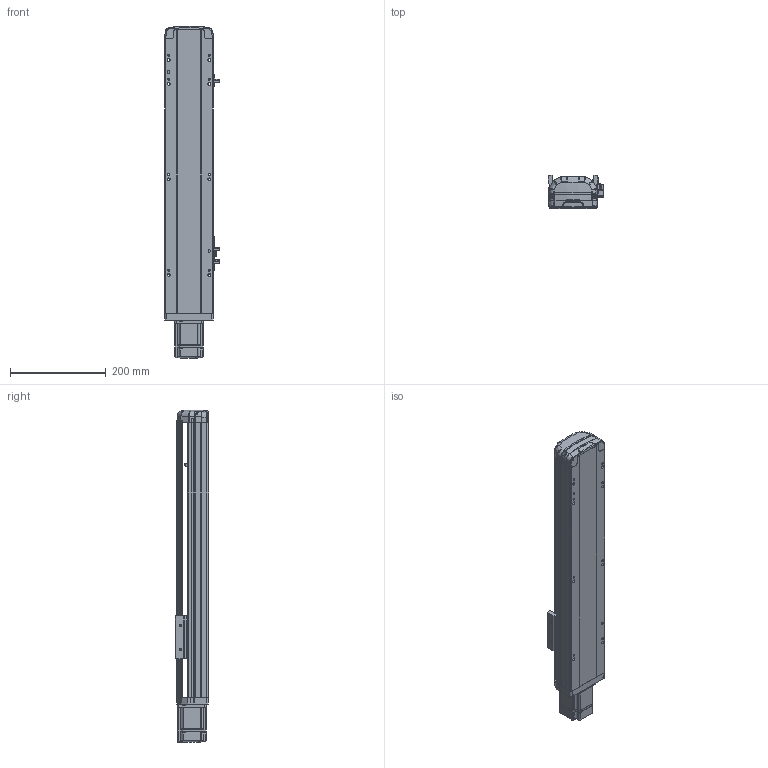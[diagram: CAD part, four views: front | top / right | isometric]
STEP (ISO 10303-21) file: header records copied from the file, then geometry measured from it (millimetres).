
FILE_DESCRIPTION (( 'STEP AP214' ), '1' );
FILE_NAME ('RTH10-XX-350-E-M20-C4.STEP', '2025-10-24T10:42:45', ( '' ), ( '' ), 'SwSTEP 2.0', 'SolidWorks 2018', '' );
FILE_SCHEMA (( 'AUTOMOTIVE_DESIGN' ));
Length unit declared in the file: millimetre
Products named in the file (9): N_RTH12-GY-004-滑座^RTH10-XX-XX-E-M20-C4（方程式）; N_RTH13-L-012感应片外置^RTH10-XX-XX-E-M20-C4（方程式）; RTH10-XX-350-E-M20-C4; N_OMRON EE-SX672 換覜ん^RTH10-XX-XX-E-M20-C4ㄗ源最宒ㄘ; N_RTH12-GY-001P^RTH10-XX-XX-E-M20-C4（方程式）; N_RTH12-E-011P-臏倰第菁釱^RTH10-XX-XX-E-M20-C4ㄗ源最宒ㄘ; N_RTH12-E-008-M20电机板^RTH10-XX-XX-E-M20-C4（方程式）; N_RTH12-E-007P-奻裔^RTH10-XX-XX-E-M20-C4ㄗ源最宒ㄘ; N_200W-1^RTH10-XX-XX-E-M20-C4（方程式）
Assembly tree (10 placements, depth 2):
  RTH10-XX-350-E-M20-C4
    N_RTH12-E-011P-臏倰第菁釱^RTH10-XX-XX-E-M20-C4ㄗ源最宒ㄘ
    N_RTH13-L-012感应片外置^RTH10-XX-XX-E-M20-C4（方程式）
    N_OMRON EE-SX672 換覜ん^RTH10-XX-XX-E-M20-C4ㄗ源最宒ㄘ  x3
    N_RTH12-E-007P-奻裔^RTH10-XX-XX-E-M20-C4ㄗ源最宒ㄘ
    N_RTH12-GY-001P^RTH10-XX-XX-E-M20-C4（方程式）
    N_RTH12-GY-004-滑座^RTH10-XX-XX-E-M20-C4（方程式）
    N_200W-1^RTH10-XX-XX-E-M20-C4（方程式）
    N_RTH12-E-008-M20电机板^RTH10-XX-XX-E-M20-C4（方程式）
Bounding box: 116.5 x 70 x 695.14 mm (x, y, z)
Volume: 2700985.9 mm3; surface area: 436535.4 mm2
Topology: 9 solids, 11 shells, 1988 faces, 5518 edges, 3622 vertices
Faces by surface type: plane 1004, cylinder 477, bspline 472, cone 33, torus 2
Entity records: 59616 total; most frequent: CARTESIAN_POINT 23314, ORIENTED_EDGE 8116, DIRECTION 6294, EDGE_CURVE 4064, VERTEX_POINT 2666, LINE 2202, VECTOR 2202, AXIS2_PLACEMENT_3D 2046
